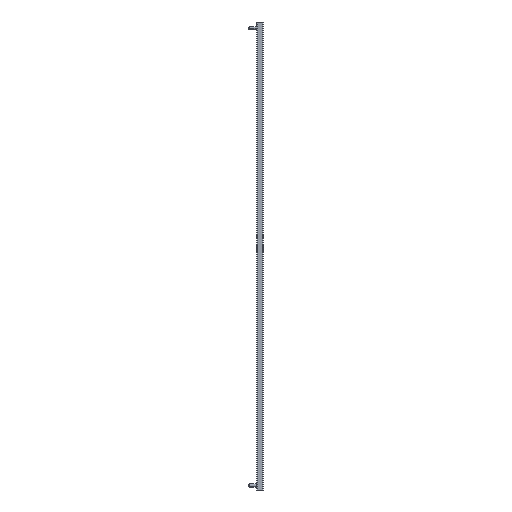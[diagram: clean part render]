
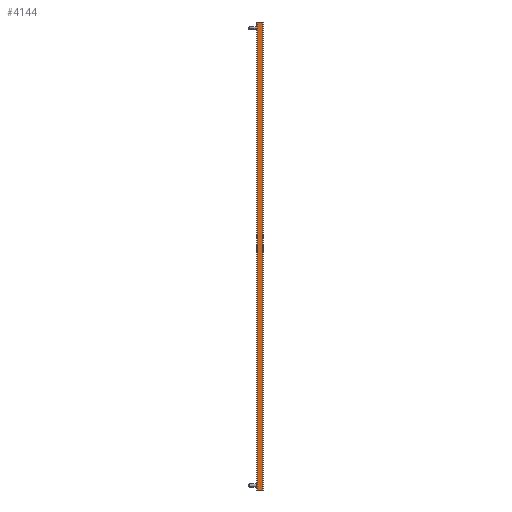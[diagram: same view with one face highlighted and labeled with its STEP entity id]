
A CAD part, left-side view. The second image highlights one B-rep face of the part: STEP entity #4144.
In plain terms, the highlighted planar face has unit normal (-1, 0, 0).
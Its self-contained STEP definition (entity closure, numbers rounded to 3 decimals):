
#18 = CARTESIAN_POINT ( 'NONE',  ( -8., 0., 879. ) ) ;
#48 = DIRECTION ( 'NONE',  ( 0., 0., 1. ) ) ;
#287 = DIRECTION ( 'NONE',  ( -1., 0., 0. ) ) ;
#573 = CARTESIAN_POINT ( 'NONE',  ( -8., 0., 0. ) ) ;
#703 = VERTEX_POINT ( 'NONE', #3307 ) ;
#726 = EDGE_CURVE ( 'NONE', #2655, #2779, #1549, .T. ) ;
#753 = VERTEX_POINT ( 'NONE', #1632 ) ;
#879 = CARTESIAN_POINT ( 'NONE',  ( -8., 12.5, 879. ) ) ;
#954 = VECTOR ( 'NONE', #48, 1000. ) ;
#968 = CARTESIAN_POINT ( 'NONE',  ( -8., 0., 0. ) ) ;
#1030 = VECTOR ( 'NONE', #3481, 1000. ) ;
#1050 = CARTESIAN_POINT ( 'NONE',  ( -8., 0., 879. ) ) ;
#1154 = CARTESIAN_POINT ( 'NONE',  ( -8., 0., 0. ) ) ;
#1328 = VECTOR ( 'NONE', #1553, 1000. ) ;
#1338 = CARTESIAN_POINT ( 'NONE',  ( -8., 9.3, 0. ) ) ;
#1347 = FACE_OUTER_BOUND ( 'NONE', #1601, .T. ) ;
#1357 = DIRECTION ( 'NONE',  ( 0., -1., 0. ) ) ;
#1379 = EDGE_CURVE ( 'NONE', #1765, #2779, #4053, .T. ) ;
#1522 = EDGE_CURVE ( 'NONE', #2865, #4481, #2085, .T. ) ;
#1533 = AXIS2_PLACEMENT_3D ( 'NONE', #1050, #287, #1738 ) ;
#1549 = LINE ( 'NONE', #3245, #2292 ) ;
#1553 = DIRECTION ( 'NONE',  ( 0., 1., 0. ) ) ;
#1601 = EDGE_LOOP ( 'NONE', ( #3322, #3225, #2724, #2890, #3140, #4278, #2821, #3124 ) ) ;
#1632 = CARTESIAN_POINT ( 'NONE',  ( -8., 3.2, 0. ) ) ;
#1680 = EDGE_CURVE ( 'NONE', #2865, #2655, #4218, .T. ) ;
#1720 = VECTOR ( 'NONE', #1928, 1000. ) ;
#1738 = DIRECTION ( 'NONE',  ( 0., 0., 1. ) ) ;
#1765 = VERTEX_POINT ( 'NONE', #1838 ) ;
#1838 = CARTESIAN_POINT ( 'NONE',  ( -8., 3.2, 879. ) ) ;
#1897 = CARTESIAN_POINT ( 'NONE',  ( -8., 0., 879. ) ) ;
#1928 = DIRECTION ( 'NONE',  ( 0., 1., 0. ) ) ;
#1946 = EDGE_CURVE ( 'NONE', #2888, #703, #2411, .T. ) ;
#2039 = LINE ( 'NONE', #573, #4208 ) ;
#2085 = LINE ( 'NONE', #968, #2088 ) ;
#2088 = VECTOR ( 'NONE', #1357, 1000. ) ;
#2140 = EDGE_CURVE ( 'NONE', #703, #1765, #3291, .T. ) ;
#2292 = VECTOR ( 'NONE', #4292, 1000. ) ;
#2411 = LINE ( 'NONE', #18, #1030 ) ;
#2655 = VERTEX_POINT ( 'NONE', #879 ) ;
#2700 = PLANE ( 'NONE',  #1533 ) ;
#2724 = ORIENTED_EDGE ( 'NONE', *, *, #3293, .T. ) ;
#2770 = LINE ( 'NONE', #4163, #3259 ) ;
#2779 = VERTEX_POINT ( 'NONE', #4128 ) ;
#2821 = ORIENTED_EDGE ( 'NONE', *, *, #1379, .T. ) ;
#2865 = VERTEX_POINT ( 'NONE', #3517 ) ;
#2888 = VERTEX_POINT ( 'NONE', #1154 ) ;
#2890 = ORIENTED_EDGE ( 'NONE', *, *, #3544, .T. ) ;
#3074 = DIRECTION ( 'NONE',  ( 0., -1., 0. ) ) ;
#3124 = ORIENTED_EDGE ( 'NONE', *, *, #726, .F. ) ;
#3140 = ORIENTED_EDGE ( 'NONE', *, *, #1946, .T. ) ;
#3225 = ORIENTED_EDGE ( 'NONE', *, *, #1522, .T. ) ;
#3245 = CARTESIAN_POINT ( 'NONE',  ( -8., 12.5, 879. ) ) ;
#3259 = VECTOR ( 'NONE', #3826, 1000. ) ;
#3291 = LINE ( 'NONE', #1897, #1328 ) ;
#3293 = EDGE_CURVE ( 'NONE', #4481, #753, #2770, .T. ) ;
#3307 = CARTESIAN_POINT ( 'NONE',  ( -8., 0., 879. ) ) ;
#3322 = ORIENTED_EDGE ( 'NONE', *, *, #1680, .F. ) ;
#3351 = CARTESIAN_POINT ( 'NONE',  ( -8., 0., 879. ) ) ;
#3481 = DIRECTION ( 'NONE',  ( 0., 0., 1. ) ) ;
#3517 = CARTESIAN_POINT ( 'NONE',  ( -8., 12.5, 0. ) ) ;
#3544 = EDGE_CURVE ( 'NONE', #753, #2888, #2039, .T. ) ;
#3826 = DIRECTION ( 'NONE',  ( 0., -1., 0. ) ) ;
#3857 = CARTESIAN_POINT ( 'NONE',  ( -8., 12.5, 879. ) ) ;
#4053 = LINE ( 'NONE', #3351, #1720 ) ;
#4128 = CARTESIAN_POINT ( 'NONE',  ( -8., 9.3, 879. ) ) ;
#4144 = ADVANCED_FACE ( 'NONE', ( #1347 ), #2700, .T. ) ;
#4163 = CARTESIAN_POINT ( 'NONE',  ( -8., 0., 0. ) ) ;
#4208 = VECTOR ( 'NONE', #3074, 1000. ) ;
#4218 = LINE ( 'NONE', #3857, #954 ) ;
#4278 = ORIENTED_EDGE ( 'NONE', *, *, #2140, .T. ) ;
#4292 = DIRECTION ( 'NONE',  ( 0., -1., 0. ) ) ;
#4481 = VERTEX_POINT ( 'NONE', #1338 ) ;
